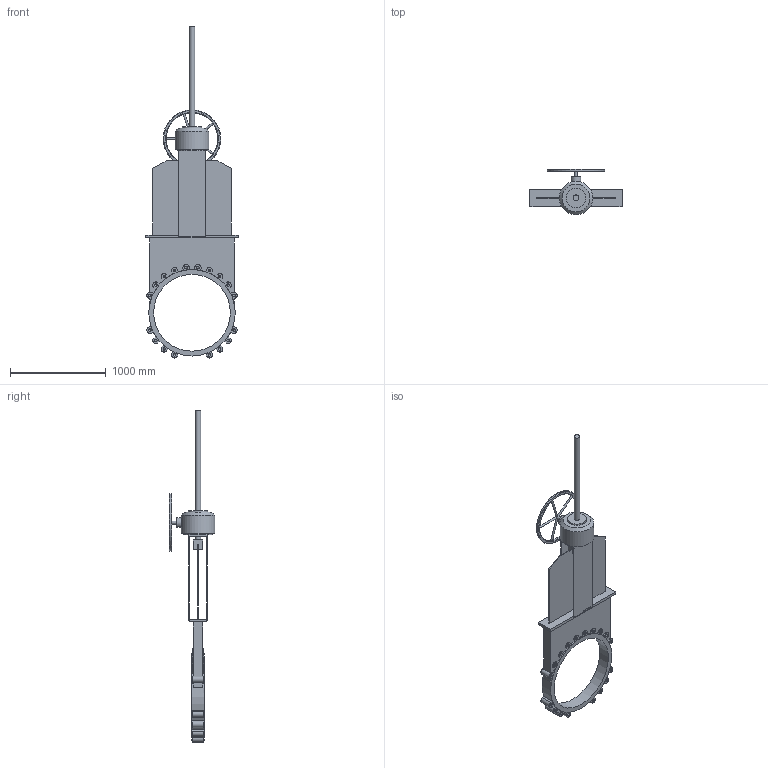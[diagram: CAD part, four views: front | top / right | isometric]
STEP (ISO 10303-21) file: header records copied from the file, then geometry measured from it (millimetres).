
FILE_DESCRIPTION(('STEP AP203'), '1');
FILE_NAME('Çàäâèæêà øèáåðíàÿ K21GV DN800 ðåäóêòîð+âûäâèæíîé øïèíäåëü', '', ('UNSPECIFIED'), ('UNSPECIFIED'), 'ASCON STEP Converter 1.6', 'ASCON Math Kernel', '');
FILE_SCHEMA(('CONFIG_CONTROL_DESIGN'));
Length unit declared in the file: millimetre
Bounding box: 960 x 475 x 3461.31 mm (x, y, z)
Volume: 101271528.9 mm3; surface area: 5533603.9 mm2
Topology: 1 solids, 1 shells, 280 faces, 748 edges, 475 vertices
Faces by surface type: plane 148, cylinder 87, cone 37, torus 8
Full cylindrical faces by diameter (mm): 20 x5, 26.211 x36, 30 x1, 60 x2, 100 x1, 200 x1, 300 x1, 350 x1, 600 x1, 800 x1, 901 x1
Entity records: 12434 total; most frequent: CARTESIAN_POINT 3667, DIRECTION 1374, ORIENTED_EDGE 1240, EDGE_CURVE 620, AXIS2_PLACEMENT_3D 520, VERTEX_POINT 439, EDGE_LOOP 393, LINE 334
